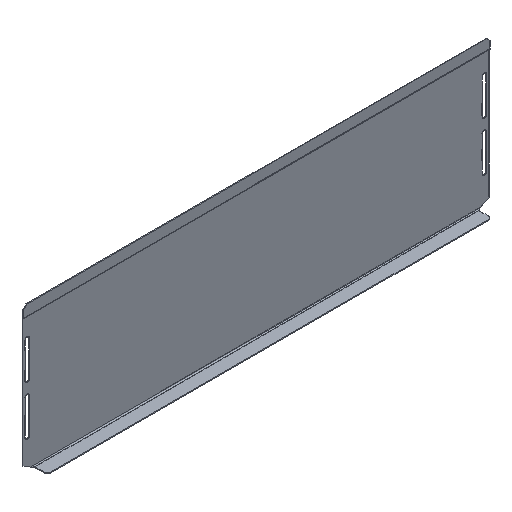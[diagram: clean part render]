
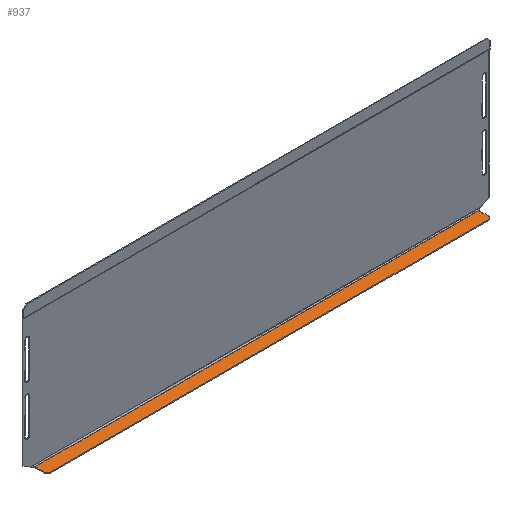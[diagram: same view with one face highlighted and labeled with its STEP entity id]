
A CAD part, isometric view. The second image highlights one B-rep face of the part: STEP entity #937.
In plain terms, the highlighted planar face has unit normal (0, 0, 1).
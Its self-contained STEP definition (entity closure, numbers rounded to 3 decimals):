
#34 = CARTESIAN_POINT ( 'NONE',  ( 295.45, -1.2, -1.2 ) ) ;
#35 = LINE ( 'NONE', #1174, #1352 ) ;
#118 = LINE ( 'NONE', #1196, #341 ) ;
#188 = CARTESIAN_POINT ( 'NONE',  ( 295.45, -17.8, -1.2 ) ) ;
#194 = DIRECTION ( 'NONE',  ( 0., -1., 0. ) ) ;
#198 = LINE ( 'NONE', #188, #1051 ) ;
#274 = CARTESIAN_POINT ( 'NONE',  ( 295.45, -14.8, -1.2 ) ) ;
#275 = EDGE_LOOP ( 'NONE', ( #1230, #1551, #1493, #475, #1011, #1557 ) ) ;
#303 = AXIS2_PLACEMENT_3D ( 'NONE', #716, #1215, #1351 ) ;
#308 = VERTEX_POINT ( 'NONE', #274 ) ;
#314 = DIRECTION ( 'NONE',  ( 0., 1., 0. ) ) ;
#341 = VECTOR ( 'NONE', #443, 1000. ) ;
#369 = EDGE_CURVE ( 'NONE', #750, #1236, #35, .T. ) ;
#403 = EDGE_CURVE ( 'NONE', #1105, #308, #118, .T. ) ;
#422 = VECTOR ( 'NONE', #1486, 1000. ) ;
#443 = DIRECTION ( 'NONE',  ( 0.707, 0.707, 0. ) ) ;
#459 = CARTESIAN_POINT ( 'NONE',  ( -295.45, -14.8, -1.2 ) ) ;
#475 = ORIENTED_EDGE ( 'NONE', *, *, #403, .T. ) ;
#509 = CARTESIAN_POINT ( 'NONE',  ( 292.45, -17.8, -1.2 ) ) ;
#564 = LINE ( 'NONE', #459, #422 ) ;
#602 = FACE_OUTER_BOUND ( 'NONE', #275, .T. ) ;
#648 = CARTESIAN_POINT ( 'NONE',  ( -295.45, -1.2, -1.2 ) ) ;
#716 = CARTESIAN_POINT ( 'NONE',  ( 0., 0., -1.2 ) ) ;
#746 = CARTESIAN_POINT ( 'NONE',  ( -295.45, -1.2, -1.2 ) ) ;
#750 = VERTEX_POINT ( 'NONE', #792 ) ;
#792 = CARTESIAN_POINT ( 'NONE',  ( -295.45, -14.8, -1.2 ) ) ;
#835 = VECTOR ( 'NONE', #956, 1000. ) ;
#875 = LINE ( 'NONE', #1197, #835 ) ;
#937 = ADVANCED_FACE ( 'NONE', ( #602 ), #992, .F. ) ;
#956 = DIRECTION ( 'NONE',  ( -1., 0., 0. ) ) ;
#958 = EDGE_CURVE ( 'NONE', #750, #1536, #564, .T. ) ;
#992 = PLANE ( 'NONE',  #303 ) ;
#1011 = ORIENTED_EDGE ( 'NONE', *, *, #1566, .F. ) ;
#1019 = VECTOR ( 'NONE', #1500, 1000. ) ;
#1051 = VECTOR ( 'NONE', #194, 1000. ) ;
#1070 = EDGE_CURVE ( 'NONE', #1236, #1327, #1170, .T. ) ;
#1105 = VERTEX_POINT ( 'NONE', #509 ) ;
#1170 = LINE ( 'NONE', #746, #1019 ) ;
#1174 = CARTESIAN_POINT ( 'NONE',  ( -295.45, -1., -1.2 ) ) ;
#1196 = CARTESIAN_POINT ( 'NONE',  ( 292.45, -17.8, -1.2 ) ) ;
#1197 = CARTESIAN_POINT ( 'NONE',  ( -295.45, -17.8, -1.2 ) ) ;
#1215 = DIRECTION ( 'NONE',  ( 0., 0., -1. ) ) ;
#1230 = ORIENTED_EDGE ( 'NONE', *, *, #369, .F. ) ;
#1236 = VERTEX_POINT ( 'NONE', #648 ) ;
#1327 = VERTEX_POINT ( 'NONE', #34 ) ;
#1334 = CARTESIAN_POINT ( 'NONE',  ( -292.45, -17.8, -1.2 ) ) ;
#1351 = DIRECTION ( 'NONE',  ( 0., 1., 0. ) ) ;
#1352 = VECTOR ( 'NONE', #314, 1000. ) ;
#1486 = DIRECTION ( 'NONE',  ( 0.707, -0.707, 0. ) ) ;
#1493 = ORIENTED_EDGE ( 'NONE', *, *, #1578, .F. ) ;
#1500 = DIRECTION ( 'NONE',  ( 1., 0., 0. ) ) ;
#1536 = VERTEX_POINT ( 'NONE', #1334 ) ;
#1551 = ORIENTED_EDGE ( 'NONE', *, *, #958, .T. ) ;
#1557 = ORIENTED_EDGE ( 'NONE', *, *, #1070, .F. ) ;
#1566 = EDGE_CURVE ( 'NONE', #1327, #308, #198, .T. ) ;
#1578 = EDGE_CURVE ( 'NONE', #1105, #1536, #875, .T. ) ;
